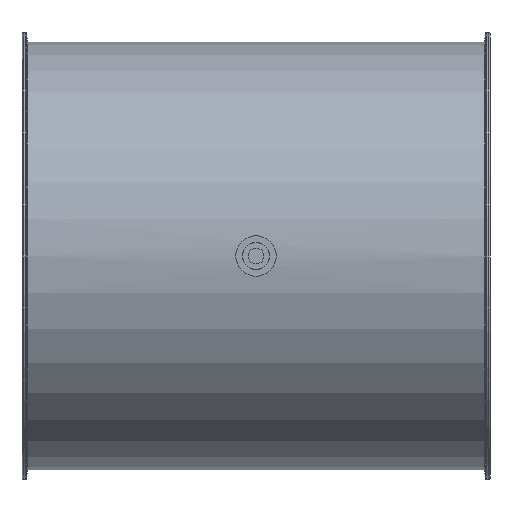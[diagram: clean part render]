
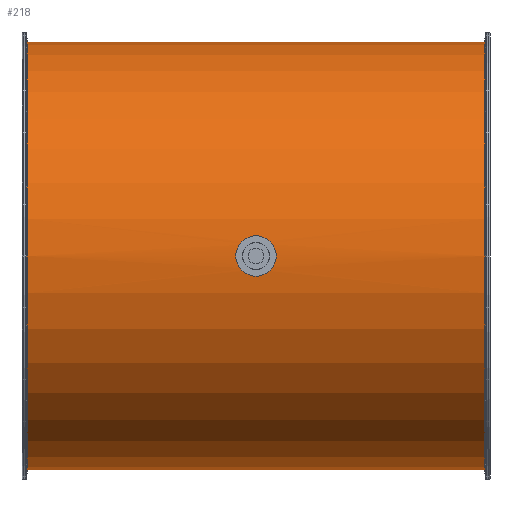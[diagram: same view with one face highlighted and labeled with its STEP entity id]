
A CAD part, front view. The second image highlights one B-rep face of the part: STEP entity #218.
In plain terms, the highlighted cylindrical face has radius 201 mm (diameter 402 mm), a full revolution.
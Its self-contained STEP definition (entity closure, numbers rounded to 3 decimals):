
#103=B_SPLINE_CURVE_WITH_KNOTS('',3,(#1806,#1807,#1808,#1809,#1810,#1811,
#1812,#1813,#1814,#1815,#1816,#1817,#1818,#1819,#1820,#1821,#1822,#1823),
 .UNSPECIFIED.,.T.,.F.,(2,2,2,2,2,2,2,2,2,2,2),(-0.125,0.,0.125,
0.25,0.375,0.5,0.625,
0.75,0.875,1.,1.125),.UNSPECIFIED.);
#104=B_SPLINE_CURVE_WITH_KNOTS('',3,(#1825,#1826,#1827,#1828,#1829,#1830,
#1831,#1832,#1833,#1834,#1835,#1836,#1837,#1838,#1839,#1840,#1841,#1842),
 .UNSPECIFIED.,.T.,.F.,(2,2,2,2,2,2,2,2,2,2,2),(-0.125,0.,0.125,
0.25,0.375,0.5,0.625,0.75,0.875,
1.,1.125),.UNSPECIFIED.);
#134=CYLINDRICAL_SURFACE('',#1233,201.);
#218=ADVANCED_FACE('',(#411,#412,#413,#414),#134,.T.);
#411=FACE_BOUND('',#545,.T.);
#412=FACE_BOUND('',#546,.T.);
#413=FACE_BOUND('',#547,.T.);
#414=FACE_BOUND('',#548,.T.);
#545=EDGE_LOOP('',(#771));
#546=EDGE_LOOP('',(#772));
#547=EDGE_LOOP('',(#773));
#548=EDGE_LOOP('',(#774));
#771=ORIENTED_EDGE('',*,*,#1047,.T.);
#772=ORIENTED_EDGE('',*,*,#1048,.F.);
#773=ORIENTED_EDGE('',*,*,#1049,.F.);
#774=ORIENTED_EDGE('',*,*,#1050,.T.);
#929=VERTEX_POINT('',#1805);
#930=VERTEX_POINT('',#1824);
#931=VERTEX_POINT('',#1843);
#932=VERTEX_POINT('',#1845);
#1047=EDGE_CURVE('',#929,#929,#1129,.T.);
#1048=EDGE_CURVE('',#930,#930,#103,.T.);
#1049=EDGE_CURVE('',#931,#931,#104,.T.);
#1050=EDGE_CURVE('',#932,#932,#1130,.T.);
#1129=CIRCLE('',#1231,201.);
#1130=CIRCLE('',#1232,201.);
#1231=AXIS2_PLACEMENT_3D('',#1804,#1474,#1475);
#1232=AXIS2_PLACEMENT_3D('',#1844,#1476,#1477);
#1233=AXIS2_PLACEMENT_3D('',#1846,#1478,#1479);
#1474=DIRECTION('',(-1.,0.,0.));
#1475=DIRECTION('',(0.,0.,-1.));
#1476=DIRECTION('',(1.,0.,0.));
#1477=DIRECTION('',(0.,0.,1.));
#1478=DIRECTION('',(1.,0.,0.));
#1479=DIRECTION('',(0.,0.,-1.));
#1804=CARTESIAN_POINT('',(214.83,-109.,125.));
#1805=CARTESIAN_POINT('',(214.83,-109.,-76.));
#1806=CARTESIAN_POINT('',(3.436,91.579,112.));
#1807=CARTESIAN_POINT('',(-3.436,91.579,112.));
#1808=CARTESIAN_POINT('',(-6.796,91.68,113.41));
#1809=CARTESIAN_POINT('',(-11.591,91.9,118.207));
#1810=CARTESIAN_POINT('',(-12.998,92.,121.601));
#1811=CARTESIAN_POINT('',(-13.002,92.,128.385));
#1812=CARTESIAN_POINT('',(-11.623,91.901,131.76));
#1813=CARTESIAN_POINT('',(-6.771,91.679,136.616));
#1814=CARTESIAN_POINT('',(-3.399,91.579,137.999));
#1815=CARTESIAN_POINT('',(3.389,91.579,138.001));
#1816=CARTESIAN_POINT('',(6.784,91.68,136.596));
#1817=CARTESIAN_POINT('',(11.583,91.899,131.807));
#1818=CARTESIAN_POINT('',(12.997,92.,128.444));
#1819=CARTESIAN_POINT('',(13.003,92.,121.581));
#1820=CARTESIAN_POINT('',(11.597,91.9,118.216));
#1821=CARTESIAN_POINT('',(6.802,91.68,113.414));
#1822=CARTESIAN_POINT('',(3.436,91.579,112.));
#1823=CARTESIAN_POINT('',(-3.436,91.579,112.));
#1824=CARTESIAN_POINT('',(0.,91.579,112.));
#1825=CARTESIAN_POINT('',(-3.436,-309.579,112.));
#1826=CARTESIAN_POINT('',(3.436,-309.579,112.));
#1827=CARTESIAN_POINT('',(6.796,-309.68,113.41));
#1828=CARTESIAN_POINT('',(11.591,-309.9,118.207));
#1829=CARTESIAN_POINT('',(12.998,-310.,121.601));
#1830=CARTESIAN_POINT('',(13.002,-310.,128.385));
#1831=CARTESIAN_POINT('',(11.623,-309.901,131.76));
#1832=CARTESIAN_POINT('',(6.771,-309.679,136.616));
#1833=CARTESIAN_POINT('',(3.399,-309.579,137.999));
#1834=CARTESIAN_POINT('',(-3.389,-309.579,138.001));
#1835=CARTESIAN_POINT('',(-6.784,-309.68,136.596));
#1836=CARTESIAN_POINT('',(-11.583,-309.899,131.807));
#1837=CARTESIAN_POINT('',(-12.997,-310.,128.444));
#1838=CARTESIAN_POINT('',(-13.003,-310.,121.581));
#1839=CARTESIAN_POINT('',(-11.597,-309.9,118.216));
#1840=CARTESIAN_POINT('',(-6.802,-309.68,113.414));
#1841=CARTESIAN_POINT('',(-3.436,-309.579,112.));
#1842=CARTESIAN_POINT('',(3.436,-309.579,112.));
#1843=CARTESIAN_POINT('',(0.,-309.579,112.));
#1844=CARTESIAN_POINT('',(-214.83,-109.,125.));
#1845=CARTESIAN_POINT('',(-214.83,-109.,326.));
#1846=CARTESIAN_POINT('',(-220.,-109.,125.));
